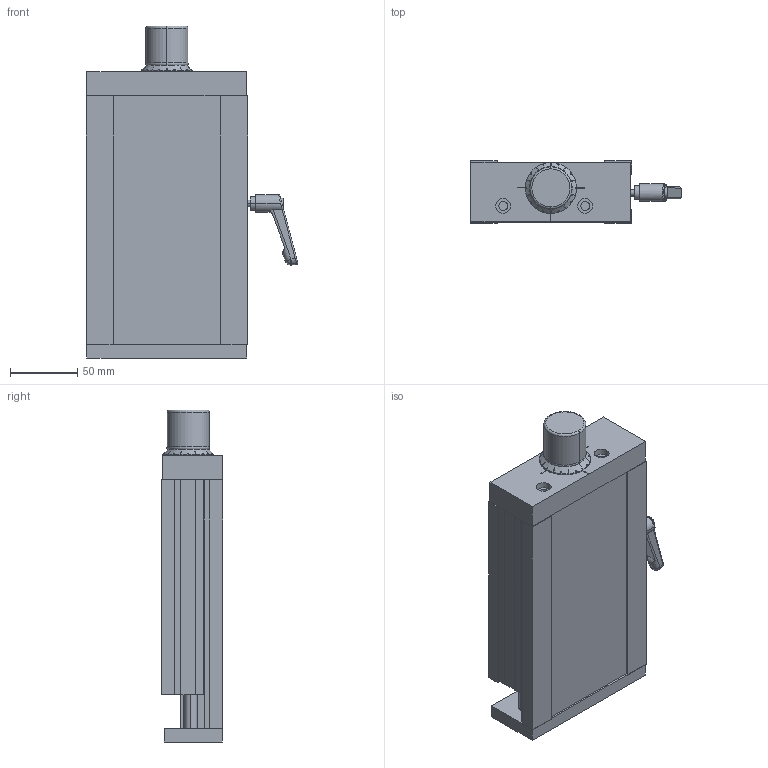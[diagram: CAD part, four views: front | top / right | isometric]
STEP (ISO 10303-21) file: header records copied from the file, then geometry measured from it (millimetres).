
FILE_DESCRIPTION (( 'STEP AP203' ), '1' );
FILE_NAME ('domiLINE 120 Hub 25 K.STEP', '2004-11-26T13:34:20', ( '' ), ( '' ), 'SwSTEP 2.0', 'SolidWorks 2004073', '' );
FILE_SCHEMA (( 'CONFIG_CONTROL_DESIGN' ));
Length unit declared in the file: millimetre
Products named in the file (4): dL 120 light-+-D013323_ _Hub25; Aussenteil neu 120 light-+-D005509_ _Standard; Klemmhebel-+-D006684_ _PDB_1009544; domiLINE 120 Hub 25 K
Assembly tree (3 placements, depth 2):
  domiLINE 120 Hub 25 K
    Aussenteil neu 120 light-+-D005509_ _Standard
    dL 120 light-+-D013323_ _Hub25
    Klemmhebel-+-D006684_ _PDB_1009544
Bounding box: 157.36 x 46 x 247 mm (x, y, z)
Volume: 985026.8 mm3; surface area: 186072.7 mm2
Topology: 3 solids, 4 shells, 296 faces, 778 edges, 510 vertices
Faces by surface type: plane 164, cylinder 74, cone 25, bspline 25, torus 4, sphere 4
Entity records: 13900 total; most frequent: CARTESIAN_POINT 6384, ORIENTED_EDGE 1556, DIRECTION 1359, EDGE_CURVE 778, VERTEX_POINT 510, VECTOR 475, LINE 475, AXIS2_PLACEMENT_3D 442
